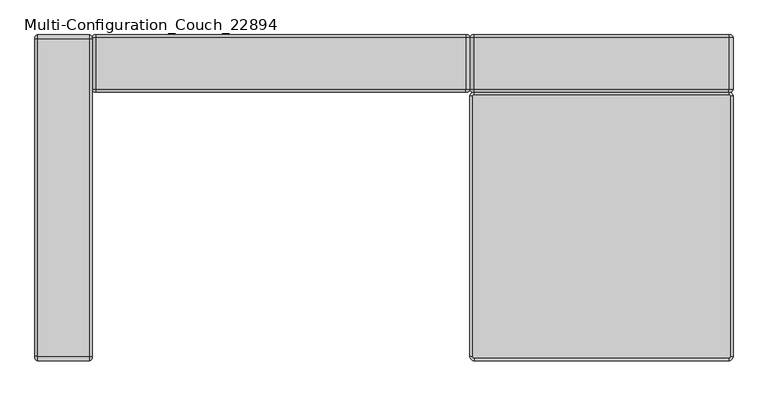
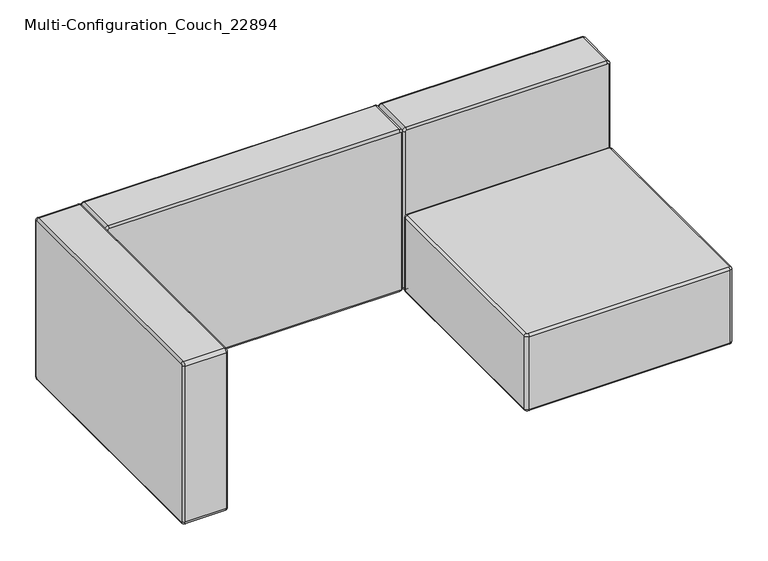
"""IFC4 building model written with IfcOpenShell, lengths in millimetres: furniture geometry, Multi-Configuration_Couch_22894 : Love Seat 2."""

from ifc_helpers import new_model, si_unit, point, frame, origin, place, context, project, spatial, circle_curve, ellipse_curve, trimmed, source, transform, mapped, element, save
from ifc_brep_helpers import plane_surface, cylinder_surface, revolved_surface, advanced_brep


def multi_configuration_couch_22894_c0699ef3(model_context):
    return source(origin(), model_context, "Body", "AdvancedBrep", [
        advanced_brep(
        [(706.7237705, 701.7270492, 549.275), (706.7237705, 701.7270492, 85.725), (709.8987705, 701.7270492, 82.55), (1275.0487705, 701.7270492, 82.55), (1278.2237705, 701.7270492, 85.725), (1278.2237705, 701.7270492, 549.275), (1275.0487705, 701.7270492, 552.45), (709.8987705, 701.7270492, 552.45), (706.7237705, 828.7270492, 85.725), (706.7237705, 828.7270492, 549.275), (709.8987705, 828.7270492, 552.45), (1275.0487705, 828.7270492, 552.45), (1278.2237705, 828.7270492, 549.275), (1278.2237705, 828.7270492, 85.725), (1275.0487705, 828.7270492, 82.55), (709.8987705, 828.7270492, 82.55), (709.8987705, 708.0770492, 558.8), (1275.0487705, 708.0770492, 558.8), (1275.0487705, 822.3770492, 558.8), (709.8987705, 822.3770492, 558.8), (700.3737705, 708.0770492, 85.725), (700.3737705, 708.0770492, 549.275), (700.3737705, 822.3770492, 549.275), (700.3737705, 822.3770492, 85.725), (1275.0487705, 708.0770492, 76.2), (709.8987705, 708.0770492, 76.2), (709.8987705, 822.3770492, 76.2), (1275.0487705, 822.3770492, 76.2), (1284.5737705, 708.0770492, 549.275), (1284.5737705, 708.0770492, 85.725), (1284.5737705, 822.3770492, 85.725), (1284.5737705, 822.3770492, 549.275)],
        [
            (0, 1),
            (1, 2, circle_curve(frame((709.8987705, 701.7270492, 85.725), z_axis=(0.0, -1.0, 0.0), x_axis=(-1.0, 0.0, 0.0)), 3.175)),
            (2, 3),
            (3, 4, circle_curve(frame((1275.0487705, 701.7270492, 85.725), z_axis=(0.0, -1.0, 0.0), x_axis=(0.0, 0.0, -1.0)), 3.175)),
            (4, 5),
            (5, 6, circle_curve(frame((1275.0487705, 701.7270492, 549.275), z_axis=(0.0, -1.0, 0.0), x_axis=(1.0, 0.0, 0.0)), 3.175)),
            (6, 7),
            (7, 0, circle_curve(frame((709.8987705, 701.7270492, 549.275), z_axis=(0.0, -1.0, 0.0), x_axis=(0.0, 0.0, 1.0)), 3.175)),
            (8, 9),
            (9, 10, circle_curve(frame((709.8987705, 828.7270492, 549.275), z_axis=(0.0, 1.0, 0.0), x_axis=(0.0, 0.0, 1.0)), 3.175)),
            (10, 11),
            (11, 12, circle_curve(frame((1275.0487705, 828.7270492, 549.275), z_axis=(0.0, 1.0, 0.0), x_axis=(1.0, 0.0, 0.0)), 3.175)),
            (12, 13),
            (13, 14, circle_curve(frame((1275.0487705, 828.7270492, 85.725), z_axis=(0.0, 1.0, 0.0), x_axis=(0.0, 0.0, -1.0)), 3.175)),
            (14, 15),
            (15, 8, circle_curve(frame((709.8987705, 828.7270492, 85.725), z_axis=(0.0, 1.0, 0.0), x_axis=(-1.0, 0.0, 0.0)), 3.175)),
            (16, 17),
            (17, 18),
            (18, 19),
            (19, 16),
            (20, 21),
            (21, 22),
            (22, 23),
            (23, 20),
            (24, 25),
            (25, 26),
            (26, 27),
            (27, 24),
            (28, 29),
            (29, 30),
            (30, 31),
            (31, 28),
            (21, 16, circle_curve(frame((709.8987705, 708.0770492, 549.275), z_axis=(0.0, 1.0, 0.0), x_axis=(1.0, 0.0, 0.0)), 9.525)),
            (19, 22, circle_curve(frame((709.8987705, 822.3770492, 549.275), z_axis=(0.0, -1.0, 0.0), x_axis=(1.0, 0.0, 0.0)), 9.525)),
            (17, 28, circle_curve(frame((1275.0487705, 708.0770492, 549.275), z_axis=(0.0, 1.0, 0.0), x_axis=(1.0, 0.0, 0.0)), 9.525)),
            (31, 18, circle_curve(frame((1275.0487705, 822.3770492, 549.275), z_axis=(0.0, -1.0, 0.0), x_axis=(1.0, 0.0, 0.0)), 9.525)),
            (25, 20, circle_curve(frame((709.8987705, 708.0770492, 85.725), z_axis=(0.0, 1.0, 0.0), x_axis=(1.0, 0.0, 0.0)), 9.525)),
            (23, 26, circle_curve(frame((709.8987705, 822.3770492, 85.725), z_axis=(0.0, -1.0, 0.0), x_axis=(1.0, 0.0, 0.0)), 9.525)),
            (29, 24, circle_curve(frame((1275.0487705, 708.0770492, 85.725), z_axis=(0.0, 1.0, 0.0), x_axis=(1.0, 0.0, 0.0)), 9.525)),
            (27, 30, circle_curve(frame((1275.0487705, 822.3770492, 85.725), z_axis=(0.0, -1.0, 0.0), x_axis=(1.0, 0.0, 0.0)), 9.525)),
            (20, 1, circle_curve(frame((706.7237705, 708.0770492, 85.725), z_axis=(0.0, 0.0, 1.0), x_axis=(1.0, 0.0, 0.0)), 6.35)),
            (0, 21, circle_curve(frame((706.7237705, 708.0770492, 549.275), z_axis=(0.0, 0.0, -1.0), x_axis=(1.0, 0.0, 0.0)), 6.35)),
            (24, 3, circle_curve(frame((1275.0487705, 708.0770492, 82.55), z_axis=(-1.0, 0.0, 0.0), x_axis=(0.0, 0.0, 1.0)), 6.35)),
            (2, 25, circle_curve(frame((709.8987705, 708.0770492, 82.55), z_axis=(1.0, 0.0, 0.0), x_axis=(0.0, 0.0, 1.0)), 6.35)),
            (28, 5, circle_curve(frame((1278.2237705, 708.0770492, 549.275), z_axis=(0.0, 0.0, -1.0), x_axis=(-1.0, 0.0, 0.0)), 6.35)),
            (4, 29, circle_curve(frame((1278.2237705, 708.0770492, 85.725), z_axis=(0.0, 0.0, 1.0), x_axis=(-1.0, 0.0, 0.0)), 6.35)),
            (17, 6, circle_curve(frame((1275.0487705, 708.0770492, 552.45), z_axis=(1.0, 0.0, 0.0), x_axis=(0.0, 0.0, -1.0)), 6.35)),
            (16, 7, circle_curve(frame((709.8987705, 708.0770492, 552.45), z_axis=(1.0, 0.0, 0.0), x_axis=(0.0, 0.0, -1.0)), 6.35)),
            (8, 23, circle_curve(frame((706.7237705, 822.3770492, 85.725), z_axis=(0.0, 0.0, 1.0), x_axis=(1.0, 0.0, 0.0)), 6.35)),
            (22, 9, circle_curve(frame((706.7237705, 822.3770492, 549.275), z_axis=(0.0, 0.0, -1.0), x_axis=(1.0, 0.0, 0.0)), 6.35)),
            (14, 27, circle_curve(frame((1275.0487705, 822.3770492, 82.55), z_axis=(-1.0, 0.0, 0.0), x_axis=(0.0, 0.0, 1.0)), 6.35)),
            (26, 15, circle_curve(frame((709.8987705, 822.3770492, 82.55), z_axis=(1.0, 0.0, 0.0), x_axis=(0.0, 0.0, 1.0)), 6.35)),
            (12, 31, circle_curve(frame((1278.2237705, 822.3770492, 549.275), z_axis=(0.0, 0.0, -1.0), x_axis=(-1.0, 0.0, 0.0)), 6.35)),
            (30, 13, circle_curve(frame((1278.2237705, 822.3770492, 85.725), z_axis=(0.0, 0.0, 1.0), x_axis=(-1.0, 0.0, 0.0)), 6.35)),
            (10, 19, circle_curve(frame((709.8987705, 822.3770492, 552.45), z_axis=(1.0, 0.0, 0.0), x_axis=(0.0, 0.0, -1.0)), 6.35)),
            (18, 11, circle_curve(frame((1275.0487705, 822.3770492, 552.45), z_axis=(-1.0, 0.0, 0.0), x_axis=(0.0, 0.0, -1.0)), 6.35)),
        ],
        [
            plane_surface(frame((700.3737705, 701.7270492, 558.8), z_axis=(0.0, -1.0, 0.0), x_axis=(-1.0, 0.0, 0.0))),
            plane_surface(frame((700.3737705, 828.7270492, 558.8), z_axis=(0.0, 1.0, 0.0), x_axis=(1.0, 0.0, 0.0))),
            plane_surface(frame((1284.5737705, 701.7270492, 558.8), z_axis=(0.0, 0.0, 1.0), x_axis=(0.0, 1.0, 0.0))),
            plane_surface(frame((700.3737705, 701.7270492, 558.8), z_axis=(-1.0, 0.0, 0.0), x_axis=(0.0, 1.0, 0.0))),
            plane_surface(frame((700.3737705, 701.7270492, 76.2), z_axis=(0.0, 0.0, -1.0), x_axis=(0.0, 1.0, 0.0))),
            plane_surface(frame((1284.5737705, 701.7270492, 76.2), z_axis=(1.0, 0.0, 0.0), x_axis=(0.0, 1.0, 0.0))),
            cylinder_surface(frame((709.8987705, 828.7270492, 549.275), z_axis=(0.0, 1.0, 0.0), x_axis=(1.0, 0.0, 0.0)), 9.525),
            cylinder_surface(frame((1275.0487705, 828.7270492, 549.275), z_axis=(0.0, 1.0, 0.0), x_axis=(1.0, 0.0, 0.0)), 9.525),
            cylinder_surface(frame((709.8987705, 828.7270492, 85.725), z_axis=(0.0, 1.0, 0.0), x_axis=(1.0, 0.0, 0.0)), 9.525),
            cylinder_surface(frame((1275.0487705, 828.7270492, 85.725), z_axis=(0.0, 1.0, 0.0), x_axis=(1.0, 0.0, 0.0)), 9.525),
            cylinder_surface(frame((706.7237705, 708.0770492, 549.275), z_axis=(0.0, 0.0, -1.0), x_axis=(1.0, 0.0, 0.0)), 6.35),
            cylinder_surface(frame((709.8987705, 708.0770492, 82.55), z_axis=(1.0, 0.0, 0.0), x_axis=(0.0, 0.0, 1.0)), 6.35),
            cylinder_surface(frame((1278.2237705, 708.0770492, 85.725), z_axis=(0.0, 0.0, 1.0), x_axis=(-1.0, 0.0, 0.0)), 6.35),
            revolved_surface(trimmed(ellipse_curve(frame((1278.2237705, 708.0770492, 549.275), z_axis=(0.0, 0.0, -1.0), x_axis=(-1.0, 0.0, 0.0)), 6.35, 6.35), [point((1284.5737705, 708.0770492, 549.275))], [point((1278.2237705, 701.7270492, 549.275))], True, "CARTESIAN"), (1275.0487705, 701.7270492, 549.275), (0.0, -1.0, 0.0)),
            cylinder_surface(frame((1275.0487705, 708.0770492, 552.45), z_axis=(-1.0, 0.0, 0.0), x_axis=(0.0, 0.0, -1.0)), 6.35),
            cylinder_surface(frame((706.7237705, 822.3770492, 549.275), z_axis=(0.0, 0.0, -1.0), x_axis=(1.0, 0.0, 0.0)), 6.35),
            cylinder_surface(frame((709.8987705, 822.3770492, 82.55), z_axis=(1.0, 0.0, 0.0), x_axis=(0.0, 0.0, 1.0)), 6.35),
            cylinder_surface(frame((1278.2237705, 822.3770492, 85.725), z_axis=(0.0, 0.0, 1.0), x_axis=(-1.0, 0.0, 0.0)), 6.35),
            cylinder_surface(frame((1275.0487705, 822.3770492, 552.45), z_axis=(-1.0, 0.0, 0.0), x_axis=(0.0, 0.0, -1.0)), 6.35),
            revolved_surface(trimmed(ellipse_curve(frame((709.8987705, 708.0770492, 552.45), z_axis=(1.0, 0.0, 0.0), x_axis=(0.0, 0.0, -1.0)), 6.35, 6.35), [point((709.8987705, 708.0770492, 558.8))], [point((709.8987705, 701.7270492, 552.45))], True, "CARTESIAN"), (709.8987705, 701.7270492, 549.275), (0.0, -1.0, 0.0)),
            revolved_surface(trimmed(ellipse_curve(frame((706.7237705, 708.0770492, 85.725), z_axis=(0.0, 0.0, 1.0), x_axis=(1.0, 0.0, 0.0)), 6.35, 6.35), [point((700.3737705, 708.0770492, 85.725))], [point((706.7237705, 701.7270492, 85.725))], True, "CARTESIAN"), (709.8987705, 701.7270492, 85.725), (0.0, -1.0, 0.0)),
            revolved_surface(trimmed(ellipse_curve(frame((1275.0487705, 708.0770492, 82.55), z_axis=(-1.0, 0.0, 0.0), x_axis=(0.0, 0.0, 1.0)), 6.35, 6.35), [point((1275.0487705, 708.0770492, 76.2))], [point((1275.0487705, 701.7270492, 82.55))], True, "CARTESIAN"), (1275.0487705, 701.7270492, 85.725), (0.0, -1.0, 0.0)),
            revolved_surface(trimmed(ellipse_curve(frame((709.8987705, 822.3770492, 552.45), z_axis=(1.0, 0.0, 0.0), x_axis=(0.0, 0.0, -1.0)), 6.35, 6.35), [point((709.8987705, 828.7270492, 552.45))], [point((709.8987705, 822.3770492, 558.8))], True, "CARTESIAN"), (709.8987705, 828.7270492, 549.275), (0.0, -1.0, 0.0)),
            revolved_surface(trimmed(ellipse_curve(frame((706.7237705, 822.3770492, 85.725), z_axis=(0.0, 0.0, 1.0), x_axis=(1.0, 0.0, 0.0)), 6.35, 6.35), [point((706.7237705, 828.7270492, 85.725))], [point((700.3737705, 822.3770492, 85.725))], True, "CARTESIAN"), (709.8987705, 828.7270492, 85.725), (0.0, -1.0, 0.0)),
            revolved_surface(trimmed(ellipse_curve(frame((1275.0487705, 822.3770492, 82.55), z_axis=(-1.0, 0.0, 0.0), x_axis=(0.0, 0.0, 1.0)), 6.35, 6.35), [point((1275.0487705, 828.7270492, 82.55))], [point((1275.0487705, 822.3770492, 76.2))], True, "CARTESIAN"), (1275.0487705, 828.7270492, 85.725), (0.0, -1.0, 0.0)),
            revolved_surface(trimmed(ellipse_curve(frame((1278.2237705, 822.3770492, 549.275), z_axis=(0.0, 0.0, -1.0), x_axis=(-1.0, 0.0, 0.0)), 6.35, 6.35), [point((1278.2237705, 828.7270492, 549.275))], [point((1284.5737705, 822.3770492, 549.275))], True, "CARTESIAN"), (1275.0487705, 828.7270492, 549.275), (0.0, -1.0, 0.0)),
        ],
        [
            (0, [[1, 2, 3, 4, 5, 6, 7, 8]]),
            (1, [[9, 10, 11, 12, 13, 14, 15, 16]]),
            (2, [[17, 18, 19, 20]]),
            (3, [[21, 22, 23, 24]]),
            (4, [[25, 26, 27, 28]]),
            (5, [[29, 30, 31, 32]]),
            (6, [[33, -20, 34, -22]]),
            (7, [[35, -32, 36, -18]]),
            (8, [[37, -24, 38, -26]]),
            (9, [[39, -28, 40, -30]]),
            (10, [[41, -1, 42, -21]]),
            (11, [[43, -3, 44, -25]]),
            (12, [[45, -5, 46, -29]]),
            (13, [[-45, -35, 47, -6]]),
            (14, [[-47, -17, 48, -7]]),
            (15, [[49, -23, 50, -9]]),
            (16, [[51, -27, 52, -15]]),
            (17, [[53, -31, 54, -13]]),
            (18, [[55, -19, 56, -11]]),
            (19, [[-42, -8, -48, -33]]),
            (20, [[-41, -37, -44, -2]]),
            (21, [[-43, -39, -46, -4]]),
            (22, [[-50, -34, -55, -10]]),
            (23, [[-49, -16, -52, -38]]),
            (24, [[-51, -14, -54, -40]]),
            (25, [[-53, -12, -56, -36]]),
        ],
    ),
        advanced_brep(
        [(1278.2237705, 114.3520492, 304.8), (1278.2237705, 692.2020492, 304.8), (1275.0487705, 695.3770492, 304.8), (709.8987705, 695.3770492, 304.8), (706.7237705, 692.2020492, 304.8), (706.7237705, 114.3520492, 304.8), (709.8987705, 111.1770492, 304.8), (1275.0487705, 111.1770492, 304.8), (1278.2237705, 692.2020492, 76.2), (1278.2237705, 114.3520492, 76.2), (1275.0487705, 111.1770492, 76.2), (709.8987705, 111.1770492, 76.2), (706.7237705, 114.3520492, 76.2), (706.7237705, 692.2020492, 76.2), (709.8987705, 695.3770492, 76.2), (1275.0487705, 695.3770492, 76.2), (1275.0487705, 104.8270492, 298.45), (709.8987705, 104.8270492, 298.45), (709.8987705, 104.8270492, 82.55), (1275.0487705, 104.8270492, 82.55), (1284.5737705, 692.2020492, 298.45), (1284.5737705, 114.3520492, 298.45), (1284.5737705, 114.3520492, 82.55), (1284.5737705, 692.2020492, 82.55), (709.8987705, 701.7270492, 298.45), (1275.0487705, 701.7270492, 298.45), (1275.0487705, 701.7270492, 82.55), (709.8987705, 701.7270492, 82.55), (700.3737705, 114.3520492, 298.45), (700.3737705, 692.2020492, 298.45), (700.3737705, 692.2020492, 82.55), (700.3737705, 114.3520492, 82.55)],
        [
            (0, 1),
            (1, 2, circle_curve(frame((1275.0487705, 692.2020492, 304.8), z_axis=(0.0, 0.0, 1.0), x_axis=(1.0, 0.0, 0.0)), 3.175)),
            (2, 3),
            (3, 4, circle_curve(frame((709.8987705, 692.2020492, 304.8), z_axis=(0.0, 0.0, 1.0), x_axis=(0.0, 1.0, 0.0)), 3.175)),
            (4, 5),
            (5, 6, circle_curve(frame((709.8987705, 114.3520492, 304.8), z_axis=(0.0, 0.0, 1.0), x_axis=(-1.0, 0.0, 0.0)), 3.175)),
            (6, 7),
            (7, 0, circle_curve(frame((1275.0487705, 114.3520492, 304.8), z_axis=(0.0, 0.0, 1.0), x_axis=(0.0, -1.0, 0.0)), 3.175)),
            (8, 9),
            (9, 10, circle_curve(frame((1275.0487705, 114.3520492, 76.2), z_axis=(0.0, 0.0, -1.0), x_axis=(0.0, -1.0, 0.0)), 3.175)),
            (10, 11),
            (11, 12, circle_curve(frame((709.8987705, 114.3520492, 76.2), z_axis=(0.0, 0.0, -1.0), x_axis=(-1.0, 0.0, 0.0)), 3.175)),
            (12, 13),
            (13, 14, circle_curve(frame((709.8987705, 692.2020492, 76.2), z_axis=(0.0, 0.0, -1.0), x_axis=(0.0, 1.0, 0.0)), 3.175)),
            (14, 15),
            (15, 8, circle_curve(frame((1275.0487705, 692.2020492, 76.2), z_axis=(0.0, 0.0, -1.0), x_axis=(1.0, 0.0, 0.0)), 3.175)),
            (16, 17),
            (17, 18),
            (18, 19),
            (19, 16),
            (20, 21),
            (21, 22),
            (22, 23),
            (23, 20),
            (24, 25),
            (25, 26),
            (26, 27),
            (27, 24),
            (28, 29),
            (29, 30),
            (30, 31),
            (31, 28),
            (21, 16, circle_curve(frame((1275.0487705, 114.3520492, 298.45), z_axis=(0.0, 0.0, -1.0), x_axis=(-1.0, 0.0, 0.0)), 9.525)),
            (19, 22, circle_curve(frame((1275.0487705, 114.3520492, 82.55), z_axis=(0.0, 0.0, 1.0), x_axis=(-1.0, 0.0, 0.0)), 9.525)),
            (17, 28, circle_curve(frame((709.8987705, 114.3520492, 298.45), z_axis=(0.0, 0.0, -1.0), x_axis=(-1.0, 0.0, 0.0)), 9.525)),
            (31, 18, circle_curve(frame((709.8987705, 114.3520492, 82.55), z_axis=(0.0, 0.0, 1.0), x_axis=(-1.0, 0.0, 0.0)), 9.525)),
            (25, 20, circle_curve(frame((1275.0487705, 692.2020492, 298.45), z_axis=(0.0, 0.0, -1.0), x_axis=(-1.0, 0.0, 0.0)), 9.525)),
            (23, 26, circle_curve(frame((1275.0487705, 692.2020492, 82.55), z_axis=(0.0, 0.0, 1.0), x_axis=(-1.0, 0.0, 0.0)), 9.525)),
            (29, 24, circle_curve(frame((709.8987705, 692.2020492, 298.45), z_axis=(0.0, 0.0, -1.0), x_axis=(-1.0, 0.0, 0.0)), 9.525)),
            (27, 30, circle_curve(frame((709.8987705, 692.2020492, 82.55), z_axis=(0.0, 0.0, 1.0), x_axis=(-1.0, 0.0, 0.0)), 9.525)),
            (20, 1, circle_curve(frame((1278.2237705, 692.2020492, 298.45), z_axis=(0.0, -1.0, 0.0), x_axis=(-1.0, 0.0, 0.0)), 6.35)),
            (0, 21, circle_curve(frame((1278.2237705, 114.3520492, 298.45), z_axis=(0.0, 1.0, 0.0), x_axis=(-1.0, 0.0, 0.0)), 6.35)),
            (24, 3, circle_curve(frame((709.8987705, 695.3770492, 298.45), z_axis=(1.0, 0.0, 0.0), x_axis=(0.0, -1.0, 0.0)), 6.35)),
            (2, 25, circle_curve(frame((1275.0487705, 695.3770492, 298.45), z_axis=(-1.0, 0.0, 0.0), x_axis=(0.0, -1.0, 0.0)), 6.35)),
            (28, 5, circle_curve(frame((706.7237705, 114.3520492, 298.45), z_axis=(0.0, 1.0, 0.0), x_axis=(1.0, 0.0, 0.0)), 6.35)),
            (4, 29, circle_curve(frame((706.7237705, 692.2020492, 298.45), z_axis=(0.0, -1.0, 0.0), x_axis=(1.0, 0.0, 0.0)), 6.35)),
            (17, 6, circle_curve(frame((709.8987705, 111.1770492, 298.45), z_axis=(-1.0, 0.0, 0.0), x_axis=(0.0, 1.0, 0.0)), 6.35)),
            (16, 7, circle_curve(frame((1275.0487705, 111.1770492, 298.45), z_axis=(-1.0, 0.0, 0.0), x_axis=(0.0, 1.0, 0.0)), 6.35)),
            (8, 23, circle_curve(frame((1278.2237705, 692.2020492, 82.55), z_axis=(0.0, -1.0, 0.0), x_axis=(-1.0, 0.0, 0.0)), 6.35)),
            (22, 9, circle_curve(frame((1278.2237705, 114.3520492, 82.55), z_axis=(0.0, 1.0, 0.0), x_axis=(-1.0, 0.0, 0.0)), 6.35)),
            (14, 27, circle_curve(frame((709.8987705, 695.3770492, 82.55), z_axis=(1.0, 0.0, 0.0), x_axis=(0.0, -1.0, 0.0)), 6.35)),
            (26, 15, circle_curve(frame((1275.0487705, 695.3770492, 82.55), z_axis=(-1.0, 0.0, 0.0), x_axis=(0.0, -1.0, 0.0)), 6.35)),
            (12, 31, circle_curve(frame((706.7237705, 114.3520492, 82.55), z_axis=(0.0, 1.0, 0.0), x_axis=(1.0, 0.0, 0.0)), 6.35)),
            (30, 13, circle_curve(frame((706.7237705, 692.2020492, 82.55), z_axis=(0.0, -1.0, 0.0), x_axis=(1.0, 0.0, 0.0)), 6.35)),
            (10, 19, circle_curve(frame((1275.0487705, 111.1770492, 82.55), z_axis=(-1.0, 0.0, 0.0), x_axis=(0.0, 1.0, 0.0)), 6.35)),
            (18, 11, circle_curve(frame((709.8987705, 111.1770492, 82.55), z_axis=(1.0, 0.0, 0.0), x_axis=(0.0, 1.0, 0.0)), 6.35)),
        ],
        [
            plane_surface(frame((1284.5737705, 104.8270492, 304.8), z_axis=(0.0, 0.0, 1.0), x_axis=(1.0, 0.0, 0.0))),
            plane_surface(frame((1284.5737705, 104.8270492, 76.2), z_axis=(0.0, 0.0, -1.0), x_axis=(-1.0, 0.0, 0.0))),
            plane_surface(frame((700.3737705, 104.8270492, 304.8), z_axis=(0.0, -1.0, 0.0), x_axis=(0.0, 0.0, -1.0))),
            plane_surface(frame((1284.5737705, 104.8270492, 304.8), z_axis=(1.0, 0.0, 0.0), x_axis=(0.0, 0.0, -1.0))),
            plane_surface(frame((1284.5737705, 701.7270492, 304.8), z_axis=(0.0, 1.0, 0.0), x_axis=(0.0, 0.0, -1.0))),
            plane_surface(frame((700.3737705, 701.7270492, 304.8), z_axis=(-1.0, 0.0, 0.0), x_axis=(0.0, 0.0, -1.0))),
            cylinder_surface(frame((1275.0487705, 114.3520492, 76.2), z_axis=(0.0, 0.0, -1.0), x_axis=(-1.0, 0.0, 0.0)), 9.525),
            cylinder_surface(frame((709.8987705, 114.3520492, 76.2), z_axis=(0.0, 0.0, -1.0), x_axis=(-1.0, 0.0, 0.0)), 9.525),
            cylinder_surface(frame((1275.0487705, 692.2020492, 76.2), z_axis=(0.0, 0.0, -1.0), x_axis=(-1.0, 0.0, 0.0)), 9.525),
            cylinder_surface(frame((709.8987705, 692.2020492, 76.2), z_axis=(0.0, 0.0, -1.0), x_axis=(-1.0, 0.0, 0.0)), 9.525),
            cylinder_surface(frame((1278.2237705, 114.3520492, 298.45), z_axis=(0.0, 1.0, 0.0), x_axis=(-1.0, 0.0, 0.0)), 6.35),
            cylinder_surface(frame((1275.0487705, 695.3770492, 298.45), z_axis=(-1.0, 0.0, 0.0), x_axis=(0.0, -1.0, 0.0)), 6.35),
            cylinder_surface(frame((706.7237705, 692.2020492, 298.45), z_axis=(0.0, -1.0, 0.0), x_axis=(1.0, 0.0, 0.0)), 6.35),
            revolved_surface(trimmed(ellipse_curve(frame((706.7237705, 114.3520492, 298.45), z_axis=(0.0, 1.0, 0.0), x_axis=(1.0, 0.0, 0.0)), 6.35, 6.35), [point((700.3737705, 114.3520492, 298.45))], [point((706.7237705, 114.3520492, 304.8))], True, "CARTESIAN"), (709.8987705, 114.3520492, 304.8), (0.0, 0.0, 1.0)),
            cylinder_surface(frame((709.8987705, 111.1770492, 298.45), z_axis=(1.0, 0.0, 0.0), x_axis=(0.0, 1.0, 0.0)), 6.35),
            cylinder_surface(frame((1278.2237705, 114.3520492, 82.55), z_axis=(0.0, 1.0, 0.0), x_axis=(-1.0, 0.0, 0.0)), 6.35),
            cylinder_surface(frame((1275.0487705, 695.3770492, 82.55), z_axis=(-1.0, 0.0, 0.0), x_axis=(0.0, -1.0, 0.0)), 6.35),
            cylinder_surface(frame((706.7237705, 692.2020492, 82.55), z_axis=(0.0, -1.0, 0.0), x_axis=(1.0, 0.0, 0.0)), 6.35),
            cylinder_surface(frame((709.8987705, 111.1770492, 82.55), z_axis=(1.0, 0.0, 0.0), x_axis=(0.0, 1.0, 0.0)), 6.35),
            revolved_surface(trimmed(ellipse_curve(frame((1275.0487705, 111.1770492, 298.45), z_axis=(-1.0, 0.0, 0.0), x_axis=(0.0, 1.0, 0.0)), 6.35, 6.35), [point((1275.0487705, 104.8270492, 298.45))], [point((1275.0487705, 111.1770492, 304.8))], True, "CARTESIAN"), (1275.0487705, 114.3520492, 304.8), (0.0, 0.0, 1.0)),
            revolved_surface(trimmed(ellipse_curve(frame((1278.2237705, 692.2020492, 298.45), z_axis=(0.0, -1.0, 0.0), x_axis=(-1.0, 0.0, 0.0)), 6.35, 6.35), [point((1284.5737705, 692.2020492, 298.45))], [point((1278.2237705, 692.2020492, 304.8))], True, "CARTESIAN"), (1275.0487705, 692.2020492, 304.8), (0.0, 0.0, 1.0)),
            revolved_surface(trimmed(ellipse_curve(frame((709.8987705, 695.3770492, 298.45), z_axis=(1.0, 0.0, 0.0), x_axis=(0.0, -1.0, 0.0)), 6.35, 6.35), [point((709.8987705, 701.7270492, 298.45))], [point((709.8987705, 695.3770492, 304.8))], True, "CARTESIAN"), (709.8987705, 692.2020492, 304.8), (0.0, 0.0, 1.0)),
            revolved_surface(trimmed(ellipse_curve(frame((1275.0487705, 111.1770492, 82.55), z_axis=(-1.0, 0.0, 0.0), x_axis=(0.0, 1.0, 0.0)), 6.35, 6.35), [point((1275.0487705, 111.1770492, 76.2))], [point((1275.0487705, 104.8270492, 82.55))], True, "CARTESIAN"), (1275.0487705, 114.3520492, 76.2), (0.0, 0.0, 1.0)),
            revolved_surface(trimmed(ellipse_curve(frame((1278.2237705, 692.2020492, 82.55), z_axis=(0.0, -1.0, 0.0), x_axis=(-1.0, 0.0, 0.0)), 6.35, 6.35), [point((1278.2237705, 692.2020492, 76.2))], [point((1284.5737705, 692.2020492, 82.55))], True, "CARTESIAN"), (1275.0487705, 692.2020492, 76.2), (0.0, 0.0, 1.0)),
            revolved_surface(trimmed(ellipse_curve(frame((709.8987705, 695.3770492, 82.55), z_axis=(1.0, 0.0, 0.0), x_axis=(0.0, -1.0, 0.0)), 6.35, 6.35), [point((709.8987705, 695.3770492, 76.2))], [point((709.8987705, 701.7270492, 82.55))], True, "CARTESIAN"), (709.8987705, 692.2020492, 76.2), (0.0, 0.0, 1.0)),
            revolved_surface(trimmed(ellipse_curve(frame((706.7237705, 114.3520492, 82.55), z_axis=(0.0, 1.0, 0.0), x_axis=(1.0, 0.0, 0.0)), 6.35, 6.35), [point((706.7237705, 114.3520492, 76.2))], [point((700.3737705, 114.3520492, 82.55))], True, "CARTESIAN"), (709.8987705, 114.3520492, 76.2), (0.0, 0.0, 1.0)),
        ],
        [
            (0, [[1, 2, 3, 4, 5, 6, 7, 8]]),
            (1, [[9, 10, 11, 12, 13, 14, 15, 16]]),
            (2, [[17, 18, 19, 20]]),
            (3, [[21, 22, 23, 24]]),
            (4, [[25, 26, 27, 28]]),
            (5, [[29, 30, 31, 32]]),
            (6, [[33, -20, 34, -22]]),
            (7, [[35, -32, 36, -18]]),
            (8, [[37, -24, 38, -26]]),
            (9, [[39, -28, 40, -30]]),
            (10, [[41, -1, 42, -21]]),
            (11, [[43, -3, 44, -25]]),
            (12, [[45, -5, 46, -29]]),
            (13, [[-45, -35, 47, -6]]),
            (14, [[-47, -17, 48, -7]]),
            (15, [[49, -23, 50, -9]]),
            (16, [[51, -27, 52, -15]]),
            (17, [[53, -31, 54, -13]]),
            (18, [[55, -19, 56, -11]]),
            (19, [[-42, -8, -48, -33]]),
            (20, [[-41, -37, -44, -2]]),
            (21, [[-43, -39, -46, -4]]),
            (22, [[-50, -34, -55, -10]]),
            (23, [[-49, -16, -52, -38]]),
            (24, [[-51, -14, -54, -40]]),
            (25, [[-53, -12, -56, -36]]),
        ],
    ),
        advanced_brep(
        [(-264.8262295, 822.3770492, 549.275), (-264.8262295, 822.3770492, 85.725), (-264.8262295, 819.2020492, 82.55), (-264.8262295, 114.3520492, 82.55), (-264.8262295, 111.1770492, 85.725), (-264.8262295, 111.1770492, 549.275), (-264.8262295, 114.3520492, 552.45), (-264.8262295, 819.2020492, 552.45), (-137.8262295, 822.3770492, 85.725), (-137.8262295, 822.3770492, 549.275), (-137.8262295, 819.2020492, 552.45), (-137.8262295, 114.3520492, 552.45), (-137.8262295, 111.1770492, 549.275), (-137.8262295, 111.1770492, 85.725), (-137.8262295, 114.3520492, 82.55), (-137.8262295, 819.2020492, 82.55), (-258.4762295, 819.2020492, 558.8), (-258.4762295, 114.3520492, 558.8), (-144.1762295, 114.3520492, 558.8), (-144.1762295, 819.2020492, 558.8), (-258.4762295, 828.7270492, 85.725), (-258.4762295, 828.7270492, 549.275), (-144.1762295, 828.7270492, 549.275), (-144.1762295, 828.7270492, 85.725), (-258.4762295, 114.3520492, 76.2), (-258.4762295, 819.2020492, 76.2), (-144.1762295, 819.2020492, 76.2), (-144.1762295, 114.3520492, 76.2), (-258.4762295, 104.8270492, 549.275), (-258.4762295, 104.8270492, 85.725), (-144.1762295, 104.8270492, 85.725), (-144.1762295, 104.8270492, 549.275)],
        [
            (0, 1),
            (1, 2, circle_curve(frame((-264.8262295, 819.2020492, 85.725), z_axis=(-1.0, 0.0, 0.0), x_axis=(0.0, 1.0, 0.0)), 3.175)),
            (2, 3),
            (3, 4, circle_curve(frame((-264.8262295, 114.3520492, 85.725), z_axis=(-1.0, 0.0, 0.0), x_axis=(0.0, 0.0, -1.0)), 3.175)),
            (4, 5),
            (5, 6, circle_curve(frame((-264.8262295, 114.3520492, 549.275), z_axis=(-1.0, 0.0, 0.0), x_axis=(0.0, -1.0, 0.0)), 3.175)),
            (6, 7),
            (7, 0, circle_curve(frame((-264.8262295, 819.2020492, 549.275), z_axis=(-1.0, 0.0, 0.0), x_axis=(0.0, 0.0, 1.0)), 3.175)),
            (8, 9),
            (9, 10, circle_curve(frame((-137.8262295, 819.2020492, 549.275), z_axis=(1.0, 0.0, 0.0), x_axis=(0.0, 0.0, 1.0)), 3.175)),
            (10, 11),
            (11, 12, circle_curve(frame((-137.8262295, 114.3520492, 549.275), z_axis=(1.0, 0.0, 0.0), x_axis=(0.0, -1.0, 0.0)), 3.175)),
            (12, 13),
            (13, 14, circle_curve(frame((-137.8262295, 114.3520492, 85.725), z_axis=(1.0, 0.0, 0.0), x_axis=(0.0, 0.0, -1.0)), 3.175)),
            (14, 15),
            (15, 8, circle_curve(frame((-137.8262295, 819.2020492, 85.725), z_axis=(1.0, 0.0, 0.0), x_axis=(0.0, 1.0, 0.0)), 3.175)),
            (16, 17),
            (17, 18),
            (18, 19),
            (19, 16),
            (20, 21),
            (21, 22),
            (22, 23),
            (23, 20),
            (24, 25),
            (25, 26),
            (26, 27),
            (27, 24),
            (28, 29),
            (29, 30),
            (30, 31),
            (31, 28),
            (21, 16, circle_curve(frame((-258.4762295, 819.2020492, 549.275), z_axis=(1.0, 0.0, 0.0), x_axis=(0.0, -1.0, 0.0)), 9.525)),
            (19, 22, circle_curve(frame((-144.1762295, 819.2020492, 549.275), z_axis=(-1.0, 0.0, 0.0), x_axis=(0.0, -1.0, 0.0)), 9.525)),
            (17, 28, circle_curve(frame((-258.4762295, 114.3520492, 549.275), z_axis=(1.0, 0.0, 0.0), x_axis=(0.0, -1.0, 0.0)), 9.525)),
            (31, 18, circle_curve(frame((-144.1762295, 114.3520492, 549.275), z_axis=(-1.0, 0.0, 0.0), x_axis=(0.0, -1.0, 0.0)), 9.525)),
            (25, 20, circle_curve(frame((-258.4762295, 819.2020492, 85.725), z_axis=(1.0, 0.0, 0.0), x_axis=(0.0, -1.0, 0.0)), 9.525)),
            (23, 26, circle_curve(frame((-144.1762295, 819.2020492, 85.725), z_axis=(-1.0, 0.0, 0.0), x_axis=(0.0, -1.0, 0.0)), 9.525)),
            (29, 24, circle_curve(frame((-258.4762295, 114.3520492, 85.725), z_axis=(1.0, 0.0, 0.0), x_axis=(0.0, -1.0, 0.0)), 9.525)),
            (27, 30, circle_curve(frame((-144.1762295, 114.3520492, 85.725), z_axis=(-1.0, 0.0, 0.0), x_axis=(0.0, -1.0, 0.0)), 9.525)),
            (20, 1, circle_curve(frame((-258.4762295, 822.3770492, 85.725), z_axis=(0.0, 0.0, 1.0), x_axis=(0.0, -1.0, 0.0)), 6.35)),
            (0, 21, circle_curve(frame((-258.4762295, 822.3770492, 549.275), z_axis=(0.0, 0.0, -1.0), x_axis=(0.0, -1.0, 0.0)), 6.35)),
            (24, 3, circle_curve(frame((-258.4762295, 114.3520492, 82.55), z_axis=(0.0, 1.0, 0.0), x_axis=(0.0, 0.0, 1.0)), 6.35)),
            (2, 25, circle_curve(frame((-258.4762295, 819.2020492, 82.55), z_axis=(0.0, -1.0, 0.0), x_axis=(0.0, 0.0, 1.0)), 6.35)),
            (28, 5, circle_curve(frame((-258.4762295, 111.1770492, 549.275), z_axis=(0.0, 0.0, -1.0), x_axis=(0.0, 1.0, 0.0)), 6.35)),
            (4, 29, circle_curve(frame((-258.4762295, 111.1770492, 85.725), z_axis=(0.0, 0.0, 1.0), x_axis=(0.0, 1.0, 0.0)), 6.35)),
            (17, 6, circle_curve(frame((-258.4762295, 114.3520492, 552.45), z_axis=(0.0, -1.0, 0.0), x_axis=(0.0, 0.0, -1.0)), 6.35)),
            (16, 7, circle_curve(frame((-258.4762295, 819.2020492, 552.45), z_axis=(0.0, -1.0, 0.0), x_axis=(0.0, 0.0, -1.0)), 6.35)),
            (8, 23, circle_curve(frame((-144.1762295, 822.3770492, 85.725), z_axis=(0.0, 0.0, 1.0), x_axis=(0.0, -1.0, 0.0)), 6.35)),
            (22, 9, circle_curve(frame((-144.1762295, 822.3770492, 549.275), z_axis=(0.0, 0.0, -1.0), x_axis=(0.0, -1.0, 0.0)), 6.35)),
            (14, 27, circle_curve(frame((-144.1762295, 114.3520492, 82.55), z_axis=(0.0, 1.0, 0.0), x_axis=(0.0, 0.0, 1.0)), 6.35)),
            (26, 15, circle_curve(frame((-144.1762295, 819.2020492, 82.55), z_axis=(0.0, -1.0, 0.0), x_axis=(0.0, 0.0, 1.0)), 6.35)),
            (12, 31, circle_curve(frame((-144.1762295, 111.1770492, 549.275), z_axis=(0.0, 0.0, -1.0), x_axis=(0.0, 1.0, 0.0)), 6.35)),
            (30, 13, circle_curve(frame((-144.1762295, 111.1770492, 85.725), z_axis=(0.0, 0.0, 1.0), x_axis=(0.0, 1.0, 0.0)), 6.35)),
            (10, 19, circle_curve(frame((-144.1762295, 819.2020492, 552.45), z_axis=(0.0, -1.0, 0.0), x_axis=(0.0, 0.0, -1.0)), 6.35)),
            (18, 11, circle_curve(frame((-144.1762295, 114.3520492, 552.45), z_axis=(0.0, 1.0, 0.0), x_axis=(0.0, 0.0, -1.0)), 6.35)),
        ],
        [
            plane_surface(frame((-264.8262295, 828.7270492, 558.8), z_axis=(-1.0, 0.0, 0.0), x_axis=(0.0, 1.0, 0.0))),
            plane_surface(frame((-137.8262295, 828.7270492, 558.8), z_axis=(1.0, 0.0, 0.0), x_axis=(0.0, -1.0, 0.0))),
            plane_surface(frame((-264.8262295, 104.8270492, 558.8), z_axis=(0.0, 0.0, 1.0), x_axis=(1.0, 0.0, 0.0))),
            plane_surface(frame((-264.8262295, 828.7270492, 558.8), z_axis=(0.0, 1.0, 0.0), x_axis=(1.0, 0.0, 0.0))),
            plane_surface(frame((-264.8262295, 828.7270492, 76.2), z_axis=(0.0, 0.0, -1.0), x_axis=(1.0, 0.0, 0.0))),
            plane_surface(frame((-264.8262295, 104.8270492, 76.2), z_axis=(0.0, -1.0, 0.0), x_axis=(1.0, 0.0, 0.0))),
            cylinder_surface(frame((-137.8262295, 819.2020492, 549.275), z_axis=(1.0, 0.0, 0.0), x_axis=(0.0, -1.0, 0.0)), 9.525),
            cylinder_surface(frame((-137.8262295, 114.3520492, 549.275), z_axis=(1.0, 0.0, 0.0), x_axis=(0.0, -1.0, 0.0)), 9.525),
            cylinder_surface(frame((-137.8262295, 819.2020492, 85.725), z_axis=(1.0, 0.0, 0.0), x_axis=(0.0, -1.0, 0.0)), 9.525),
            cylinder_surface(frame((-137.8262295, 114.3520492, 85.725), z_axis=(1.0, 0.0, 0.0), x_axis=(0.0, -1.0, 0.0)), 9.525),
            cylinder_surface(frame((-258.4762295, 822.3770492, 549.275), z_axis=(0.0, 0.0, -1.0), x_axis=(0.0, -1.0, 0.0)), 6.35),
            cylinder_surface(frame((-258.4762295, 819.2020492, 82.55), z_axis=(0.0, -1.0, 0.0), x_axis=(0.0, 0.0, 1.0)), 6.35),
            cylinder_surface(frame((-258.4762295, 111.1770492, 85.725), z_axis=(0.0, 0.0, 1.0), x_axis=(0.0, 1.0, 0.0)), 6.35),
            revolved_surface(trimmed(ellipse_curve(frame((-258.4762295, 111.1770492, 549.275), z_axis=(0.0, 0.0, -1.0), x_axis=(0.0, 1.0, 0.0)), 6.35, 6.35), [point((-258.4762295, 104.8270492, 549.275))], [point((-264.8262295, 111.1770492, 549.275))], True, "CARTESIAN"), (-264.8262295, 114.3520492, 549.275), (-1.0, 0.0, 0.0)),
            cylinder_surface(frame((-258.4762295, 114.3520492, 552.45), z_axis=(0.0, 1.0, 0.0), x_axis=(0.0, 0.0, -1.0)), 6.35),
            cylinder_surface(frame((-144.1762295, 822.3770492, 549.275), z_axis=(0.0, 0.0, -1.0), x_axis=(0.0, -1.0, 0.0)), 6.35),
            cylinder_surface(frame((-144.1762295, 819.2020492, 82.55), z_axis=(0.0, -1.0, 0.0), x_axis=(0.0, 0.0, 1.0)), 6.35),
            cylinder_surface(frame((-144.1762295, 111.1770492, 85.725), z_axis=(0.0, 0.0, 1.0), x_axis=(0.0, 1.0, 0.0)), 6.35),
            cylinder_surface(frame((-144.1762295, 114.3520492, 552.45), z_axis=(0.0, 1.0, 0.0), x_axis=(0.0, 0.0, -1.0)), 6.35),
            revolved_surface(trimmed(ellipse_curve(frame((-258.4762295, 819.2020492, 552.45), z_axis=(0.0, -1.0, 0.0), x_axis=(0.0, 0.0, -1.0)), 6.35, 6.35), [point((-258.4762295, 819.2020492, 558.8))], [point((-264.8262295, 819.2020492, 552.45))], True, "CARTESIAN"), (-264.8262295, 819.2020492, 549.275), (-1.0, 0.0, 0.0)),
            revolved_surface(trimmed(ellipse_curve(frame((-258.4762295, 822.3770492, 85.725), z_axis=(0.0, 0.0, 1.0), x_axis=(0.0, -1.0, 0.0)), 6.35, 6.35), [point((-258.4762295, 828.7270492, 85.725))], [point((-264.8262295, 822.3770492, 85.725))], True, "CARTESIAN"), (-264.8262295, 819.2020492, 85.725), (-1.0, 0.0, 0.0)),
            revolved_surface(trimmed(ellipse_curve(frame((-258.4762295, 114.3520492, 82.55), z_axis=(0.0, 1.0, 0.0), x_axis=(0.0, 0.0, 1.0)), 6.35, 6.35), [point((-258.4762295, 114.3520492, 76.2))], [point((-264.8262295, 114.3520492, 82.55))], True, "CARTESIAN"), (-264.8262295, 114.3520492, 85.725), (-1.0, 0.0, 0.0)),
            revolved_surface(trimmed(ellipse_curve(frame((-144.1762295, 819.2020492, 552.45), z_axis=(0.0, -1.0, 0.0), x_axis=(0.0, 0.0, -1.0)), 6.35, 6.35), [point((-137.8262295, 819.2020492, 552.45))], [point((-144.1762295, 819.2020492, 558.8))], True, "CARTESIAN"), (-137.8262295, 819.2020492, 549.275), (-1.0, 0.0, 0.0)),
            revolved_surface(trimmed(ellipse_curve(frame((-144.1762295, 822.3770492, 85.725), z_axis=(0.0, 0.0, 1.0), x_axis=(0.0, -1.0, 0.0)), 6.35, 6.35), [point((-137.8262295, 822.3770492, 85.725))], [point((-144.1762295, 828.7270492, 85.725))], True, "CARTESIAN"), (-137.8262295, 819.2020492, 85.725), (-1.0, 0.0, 0.0)),
            revolved_surface(trimmed(ellipse_curve(frame((-144.1762295, 114.3520492, 82.55), z_axis=(0.0, 1.0, 0.0), x_axis=(0.0, 0.0, 1.0)), 6.35, 6.35), [point((-137.8262295, 114.3520492, 82.55))], [point((-144.1762295, 114.3520492, 76.2))], True, "CARTESIAN"), (-137.8262295, 114.3520492, 85.725), (-1.0, 0.0, 0.0)),
            revolved_surface(trimmed(ellipse_curve(frame((-144.1762295, 111.1770492, 549.275), z_axis=(0.0, 0.0, -1.0), x_axis=(0.0, 1.0, 0.0)), 6.35, 6.35), [point((-137.8262295, 111.1770492, 549.275))], [point((-144.1762295, 104.8270492, 549.275))], True, "CARTESIAN"), (-137.8262295, 114.3520492, 549.275), (-1.0, 0.0, 0.0)),
        ],
        [
            (0, [[1, 2, 3, 4, 5, 6, 7, 8]]),
            (1, [[9, 10, 11, 12, 13, 14, 15, 16]]),
            (2, [[17, 18, 19, 20]]),
            (3, [[21, 22, 23, 24]]),
            (4, [[25, 26, 27, 28]]),
            (5, [[29, 30, 31, 32]]),
            (6, [[33, -20, 34, -22]]),
            (7, [[35, -32, 36, -18]]),
            (8, [[37, -24, 38, -26]]),
            (9, [[39, -28, 40, -30]]),
            (10, [[41, -1, 42, -21]]),
            (11, [[43, -3, 44, -25]]),
            (12, [[45, -5, 46, -29]]),
            (13, [[-45, -35, 47, -6]]),
            (14, [[-47, -17, 48, -7]]),
            (15, [[49, -23, 50, -9]]),
            (16, [[51, -27, 52, -15]]),
            (17, [[53, -31, 54, -13]]),
            (18, [[55, -19, 56, -11]]),
            (19, [[-42, -8, -48, -33]]),
            (20, [[-41, -37, -44, -2]]),
            (21, [[-43, -39, -46, -4]]),
            (22, [[-50, -34, -55, -10]]),
            (23, [[-49, -16, -52, -38]]),
            (24, [[-51, -14, -54, -40]]),
            (25, [[-53, -12, -56, -36]]),
        ],
    ),
        advanced_brep(
        [(-131.4762295, 701.7270492, 549.275), (-131.4762295, 701.7270492, 85.725), (-128.3012295, 701.7270492, 82.55), (690.8487705, 701.7270492, 82.55), (694.0237705, 701.7270492, 85.725), (694.0237705, 701.7270492, 549.275), (690.8487705, 701.7270492, 552.45), (-128.3012295, 701.7270492, 552.45), (-131.4762295, 828.7270492, 85.725), (-131.4762295, 828.7270492, 549.275), (-128.3012295, 828.7270492, 552.45), (690.8487705, 828.7270492, 552.45), (694.0237705, 828.7270492, 549.275), (694.0237705, 828.7270492, 85.725), (690.8487705, 828.7270492, 82.55), (-128.3012295, 828.7270492, 82.55), (-128.3012295, 708.0770492, 558.8), (690.8487705, 708.0770492, 558.8), (690.8487705, 822.3770492, 558.8), (-128.3012295, 822.3770492, 558.8), (-137.8262295, 708.0770492, 85.725), (-137.8262295, 708.0770492, 549.275), (-137.8262295, 822.3770492, 549.275), (-137.8262295, 822.3770492, 85.725), (690.8487705, 708.0770492, 76.2), (-128.3012295, 708.0770492, 76.2), (-128.3012295, 822.3770492, 76.2), (690.8487705, 822.3770492, 76.2), (700.3737705, 708.0770492, 549.275), (700.3737705, 708.0770492, 85.725), (700.3737705, 822.3770492, 85.725), (700.3737705, 822.3770492, 549.275)],
        [
            (0, 1),
            (1, 2, circle_curve(frame((-128.3012295, 701.7270492, 85.725), z_axis=(0.0, -1.0, 0.0), x_axis=(-1.0, 0.0, 0.0)), 3.175)),
            (2, 3),
            (3, 4, circle_curve(frame((690.8487705, 701.7270492, 85.725), z_axis=(0.0, -1.0, 0.0), x_axis=(0.0, 0.0, -1.0)), 3.175)),
            (4, 5),
            (5, 6, circle_curve(frame((690.8487705, 701.7270492, 549.275), z_axis=(0.0, -1.0, 0.0), x_axis=(1.0, 0.0, 0.0)), 3.175)),
            (6, 7),
            (7, 0, circle_curve(frame((-128.3012295, 701.7270492, 549.275), z_axis=(0.0, -1.0, 0.0), x_axis=(0.0, 0.0, 1.0)), 3.175)),
            (8, 9),
            (9, 10, circle_curve(frame((-128.3012295, 828.7270492, 549.275), z_axis=(0.0, 1.0, 0.0), x_axis=(0.0, 0.0, 1.0)), 3.175)),
            (10, 11),
            (11, 12, circle_curve(frame((690.8487705, 828.7270492, 549.275), z_axis=(0.0, 1.0, 0.0), x_axis=(1.0, 0.0, 0.0)), 3.175)),
            (12, 13),
            (13, 14, circle_curve(frame((690.8487705, 828.7270492, 85.725), z_axis=(0.0, 1.0, 0.0), x_axis=(0.0, 0.0, -1.0)), 3.175)),
            (14, 15),
            (15, 8, circle_curve(frame((-128.3012295, 828.7270492, 85.725), z_axis=(0.0, 1.0, 0.0), x_axis=(-1.0, 0.0, 0.0)), 3.175)),
            (16, 17),
            (17, 18),
            (18, 19),
            (19, 16),
            (20, 21),
            (21, 22),
            (22, 23),
            (23, 20),
            (24, 25),
            (25, 26),
            (26, 27),
            (27, 24),
            (28, 29),
            (29, 30),
            (30, 31),
            (31, 28),
            (21, 16, circle_curve(frame((-128.3012295, 708.0770492, 549.275), z_axis=(0.0, 1.0, 0.0), x_axis=(1.0, 0.0, 0.0)), 9.525)),
            (19, 22, circle_curve(frame((-128.3012295, 822.3770492, 549.275), z_axis=(0.0, -1.0, 0.0), x_axis=(1.0, 0.0, 0.0)), 9.525)),
            (17, 28, circle_curve(frame((690.8487705, 708.0770492, 549.275), z_axis=(0.0, 1.0, 0.0), x_axis=(1.0, 0.0, 0.0)), 9.525)),
            (31, 18, circle_curve(frame((690.8487705, 822.3770492, 549.275), z_axis=(0.0, -1.0, 0.0), x_axis=(1.0, 0.0, 0.0)), 9.525)),
            (25, 20, circle_curve(frame((-128.3012295, 708.0770492, 85.725), z_axis=(0.0, 1.0, 0.0), x_axis=(1.0, 0.0, 0.0)), 9.525)),
            (23, 26, circle_curve(frame((-128.3012295, 822.3770492, 85.725), z_axis=(0.0, -1.0, 0.0), x_axis=(1.0, 0.0, 0.0)), 9.525)),
            (29, 24, circle_curve(frame((690.8487705, 708.0770492, 85.725), z_axis=(0.0, 1.0, 0.0), x_axis=(1.0, 0.0, 0.0)), 9.525)),
            (27, 30, circle_curve(frame((690.8487705, 822.3770492, 85.725), z_axis=(0.0, -1.0, 0.0), x_axis=(1.0, 0.0, 0.0)), 9.525)),
            (20, 1, circle_curve(frame((-131.4762295, 708.0770492, 85.725), z_axis=(0.0, 0.0, 1.0), x_axis=(1.0, 0.0, 0.0)), 6.35)),
            (0, 21, circle_curve(frame((-131.4762295, 708.0770492, 549.275), z_axis=(0.0, 0.0, -1.0), x_axis=(1.0, 0.0, 0.0)), 6.35)),
            (24, 3, circle_curve(frame((690.8487705, 708.0770492, 82.55), z_axis=(-1.0, 0.0, 0.0), x_axis=(0.0, 0.0, 1.0)), 6.35)),
            (2, 25, circle_curve(frame((-128.3012295, 708.0770492, 82.55), z_axis=(1.0, 0.0, 0.0), x_axis=(0.0, 0.0, 1.0)), 6.35)),
            (28, 5, circle_curve(frame((694.0237705, 708.0770492, 549.275), z_axis=(0.0, 0.0, -1.0), x_axis=(-1.0, 0.0, 0.0)), 6.35)),
            (4, 29, circle_curve(frame((694.0237705, 708.0770492, 85.725), z_axis=(0.0, 0.0, 1.0), x_axis=(-1.0, 0.0, 0.0)), 6.35)),
            (17, 6, circle_curve(frame((690.8487705, 708.0770492, 552.45), z_axis=(1.0, 0.0, 0.0), x_axis=(0.0, 0.0, -1.0)), 6.35)),
            (16, 7, circle_curve(frame((-128.3012295, 708.0770492, 552.45), z_axis=(1.0, 0.0, 0.0), x_axis=(0.0, 0.0, -1.0)), 6.35)),
            (8, 23, circle_curve(frame((-131.4762295, 822.3770492, 85.725), z_axis=(0.0, 0.0, 1.0), x_axis=(1.0, 0.0, 0.0)), 6.35)),
            (22, 9, circle_curve(frame((-131.4762295, 822.3770492, 549.275), z_axis=(0.0, 0.0, -1.0), x_axis=(1.0, 0.0, 0.0)), 6.35)),
            (14, 27, circle_curve(frame((690.8487705, 822.3770492, 82.55), z_axis=(-1.0, 0.0, 0.0), x_axis=(0.0, 0.0, 1.0)), 6.35)),
            (26, 15, circle_curve(frame((-128.3012295, 822.3770492, 82.55), z_axis=(1.0, 0.0, 0.0), x_axis=(0.0, 0.0, 1.0)), 6.35)),
            (12, 31, circle_curve(frame((694.0237705, 822.3770492, 549.275), z_axis=(0.0, 0.0, -1.0), x_axis=(-1.0, 0.0, 0.0)), 6.35)),
            (30, 13, circle_curve(frame((694.0237705, 822.3770492, 85.725), z_axis=(0.0, 0.0, 1.0), x_axis=(-1.0, 0.0, 0.0)), 6.35)),
            (10, 19, circle_curve(frame((-128.3012295, 822.3770492, 552.45), z_axis=(1.0, 0.0, 0.0), x_axis=(0.0, 0.0, -1.0)), 6.35)),
            (18, 11, circle_curve(frame((690.8487705, 822.3770492, 552.45), z_axis=(-1.0, 0.0, 0.0), x_axis=(0.0, 0.0, -1.0)), 6.35)),
        ],
        [
            plane_surface(frame((-137.8262295, 701.7270492, 558.8), z_axis=(0.0, -1.0, 0.0), x_axis=(-1.0, 0.0, 0.0))),
            plane_surface(frame((-137.8262295, 828.7270492, 558.8), z_axis=(0.0, 1.0, 0.0), x_axis=(1.0, 0.0, 0.0))),
            plane_surface(frame((700.3737705, 701.7270492, 558.8), z_axis=(0.0, 0.0, 1.0), x_axis=(0.0, 1.0, 0.0))),
            plane_surface(frame((-137.8262295, 701.7270492, 558.8), z_axis=(-1.0, 0.0, 0.0), x_axis=(0.0, 1.0, 0.0))),
            plane_surface(frame((-137.8262295, 701.7270492, 76.2), z_axis=(0.0, 0.0, -1.0), x_axis=(0.0, 1.0, 0.0))),
            plane_surface(frame((700.3737705, 701.7270492, 76.2), z_axis=(1.0, 0.0, 0.0), x_axis=(0.0, 1.0, 0.0))),
            cylinder_surface(frame((-128.3012295, 828.7270492, 549.275), z_axis=(0.0, 1.0, 0.0), x_axis=(1.0, 0.0, 0.0)), 9.525),
            cylinder_surface(frame((690.8487705, 828.7270492, 549.275), z_axis=(0.0, 1.0, 0.0), x_axis=(1.0, 0.0, 0.0)), 9.525),
            cylinder_surface(frame((-128.3012295, 828.7270492, 85.725), z_axis=(0.0, 1.0, 0.0), x_axis=(1.0, 0.0, 0.0)), 9.525),
            cylinder_surface(frame((690.8487705, 828.7270492, 85.725), z_axis=(0.0, 1.0, 0.0), x_axis=(1.0, 0.0, 0.0)), 9.525),
            cylinder_surface(frame((-131.4762295, 708.0770492, 549.275), z_axis=(0.0, 0.0, -1.0), x_axis=(1.0, 0.0, 0.0)), 6.35),
            cylinder_surface(frame((-128.3012295, 708.0770492, 82.55), z_axis=(1.0, 0.0, 0.0), x_axis=(0.0, 0.0, 1.0)), 6.35),
            cylinder_surface(frame((694.0237705, 708.0770492, 85.725), z_axis=(0.0, 0.0, 1.0), x_axis=(-1.0, 0.0, 0.0)), 6.35),
            revolved_surface(trimmed(ellipse_curve(frame((694.0237705, 708.0770492, 549.275), z_axis=(0.0, 0.0, -1.0), x_axis=(-1.0, 0.0, 0.0)), 6.35, 6.35), [point((700.3737705, 708.0770492, 549.275))], [point((694.0237705, 701.7270492, 549.275))], True, "CARTESIAN"), (690.8487705, 701.7270492, 549.275), (0.0, -1.0, 0.0)),
            cylinder_surface(frame((690.8487705, 708.0770492, 552.45), z_axis=(-1.0, 0.0, 0.0), x_axis=(0.0, 0.0, -1.0)), 6.35),
            cylinder_surface(frame((-131.4762295, 822.3770492, 549.275), z_axis=(0.0, 0.0, -1.0), x_axis=(1.0, 0.0, 0.0)), 6.35),
            cylinder_surface(frame((-128.3012295, 822.3770492, 82.55), z_axis=(1.0, 0.0, 0.0), x_axis=(0.0, 0.0, 1.0)), 6.35),
            cylinder_surface(frame((694.0237705, 822.3770492, 85.725), z_axis=(0.0, 0.0, 1.0), x_axis=(-1.0, 0.0, 0.0)), 6.35),
            cylinder_surface(frame((690.8487705, 822.3770492, 552.45), z_axis=(-1.0, 0.0, 0.0), x_axis=(0.0, 0.0, -1.0)), 6.35),
            revolved_surface(trimmed(ellipse_curve(frame((-128.3012295, 708.0770492, 552.45), z_axis=(1.0, 0.0, 0.0), x_axis=(0.0, 0.0, -1.0)), 6.35, 6.35), [point((-128.3012295, 708.0770492, 558.8))], [point((-128.3012295, 701.7270492, 552.45))], True, "CARTESIAN"), (-128.3012295, 701.7270492, 549.275), (0.0, -1.0, 0.0)),
            revolved_surface(trimmed(ellipse_curve(frame((-131.4762295, 708.0770492, 85.725), z_axis=(0.0, 0.0, 1.0), x_axis=(1.0, 0.0, 0.0)), 6.35, 6.35), [point((-137.8262295, 708.0770492, 85.725))], [point((-131.4762295, 701.7270492, 85.725))], True, "CARTESIAN"), (-128.3012295, 701.7270492, 85.725), (0.0, -1.0, 0.0)),
            revolved_surface(trimmed(ellipse_curve(frame((690.8487705, 708.0770492, 82.55), z_axis=(-1.0, 0.0, 0.0), x_axis=(0.0, 0.0, 1.0)), 6.35, 6.35), [point((690.8487705, 708.0770492, 76.2))], [point((690.8487705, 701.7270492, 82.55))], True, "CARTESIAN"), (690.8487705, 701.7270492, 85.725), (0.0, -1.0, 0.0)),
            revolved_surface(trimmed(ellipse_curve(frame((-128.3012295, 822.3770492, 552.45), z_axis=(1.0, 0.0, 0.0), x_axis=(0.0, 0.0, -1.0)), 6.35, 6.35), [point((-128.3012295, 828.7270492, 552.45))], [point((-128.3012295, 822.3770492, 558.8))], True, "CARTESIAN"), (-128.3012295, 828.7270492, 549.275), (0.0, -1.0, 0.0)),
            revolved_surface(trimmed(ellipse_curve(frame((-131.4762295, 822.3770492, 85.725), z_axis=(0.0, 0.0, 1.0), x_axis=(1.0, 0.0, 0.0)), 6.35, 6.35), [point((-131.4762295, 828.7270492, 85.725))], [point((-137.8262295, 822.3770492, 85.725))], True, "CARTESIAN"), (-128.3012295, 828.7270492, 85.725), (0.0, -1.0, 0.0)),
            revolved_surface(trimmed(ellipse_curve(frame((690.8487705, 822.3770492, 82.55), z_axis=(-1.0, 0.0, 0.0), x_axis=(0.0, 0.0, 1.0)), 6.35, 6.35), [point((690.8487705, 828.7270492, 82.55))], [point((690.8487705, 822.3770492, 76.2))], True, "CARTESIAN"), (690.8487705, 828.7270492, 85.725), (0.0, -1.0, 0.0)),
            revolved_surface(trimmed(ellipse_curve(frame((694.0237705, 822.3770492, 549.275), z_axis=(0.0, 0.0, -1.0), x_axis=(-1.0, 0.0, 0.0)), 6.35, 6.35), [point((694.0237705, 828.7270492, 549.275))], [point((700.3737705, 822.3770492, 549.275))], True, "CARTESIAN"), (690.8487705, 828.7270492, 549.275), (0.0, -1.0, 0.0)),
        ],
        [
            (0, [[1, 2, 3, 4, 5, 6, 7, 8]]),
            (1, [[9, 10, 11, 12, 13, 14, 15, 16]]),
            (2, [[17, 18, 19, 20]]),
            (3, [[21, 22, 23, 24]]),
            (4, [[25, 26, 27, 28]]),
            (5, [[29, 30, 31, 32]]),
            (6, [[33, -20, 34, -22]]),
            (7, [[35, -32, 36, -18]]),
            (8, [[37, -24, 38, -26]]),
            (9, [[39, -28, 40, -30]]),
            (10, [[41, -1, 42, -21]]),
            (11, [[43, -3, 44, -25]]),
            (12, [[45, -5, 46, -29]]),
            (13, [[-45, -35, 47, -6]]),
            (14, [[-47, -17, 48, -7]]),
            (15, [[49, -23, 50, -9]]),
            (16, [[51, -27, 52, -15]]),
            (17, [[53, -31, 54, -13]]),
            (18, [[55, -19, 56, -11]]),
            (19, [[-42, -8, -48, -33]]),
            (20, [[-41, -37, -44, -2]]),
            (21, [[-43, -39, -46, -4]]),
            (22, [[-50, -34, -55, -10]]),
            (23, [[-49, -16, -52, -38]]),
            (24, [[-51, -14, -54, -40]]),
            (25, [[-53, -12, -56, -36]]),
        ],
    ),
    ])


if __name__ == "__main__":
    model = new_model("IFC4")
    model_context = context("Model", 3, world=origin())
    ifc_project = project(units=[si_unit("LENGTHUNIT", "METRE", prefix="MILLI")], contexts=[model_context])
    site = spatial("IfcSite", under=ifc_project)
    building = spatial("IfcBuilding", under=site)
    placement = place(None, origin())
    multi_configuration_couch_22894_shape = multi_configuration_couch_22894_c0699ef3(model_context)
    element("IfcFurniture", 1, ObjectType="Multi-Configuration_Couch_22894 : Love Seat 2", at=placement, inside=building, context=model_context, shape_type="MappedRepresentation", body=[
        mapped(multi_configuration_couch_22894_shape, transform((0.0, 0.0, 0.0), x_axis=(1.0, 0.0, 0.0), y_axis=(0.0, 1.0, 0.0), z_axis=(0.0, 0.0, 1.0))),
    ])
    save(model, "model.ifc")
